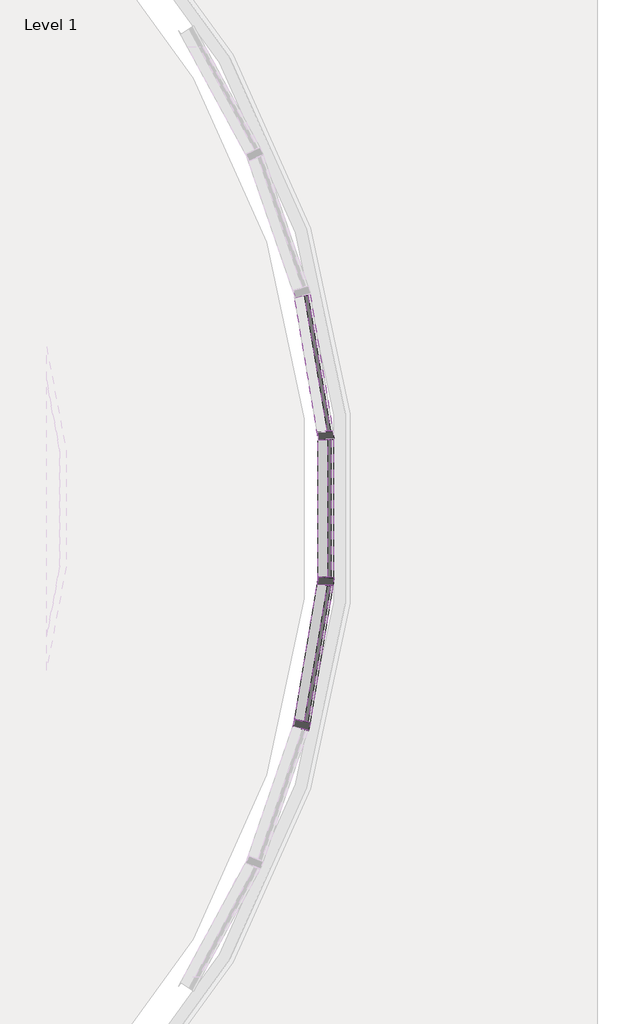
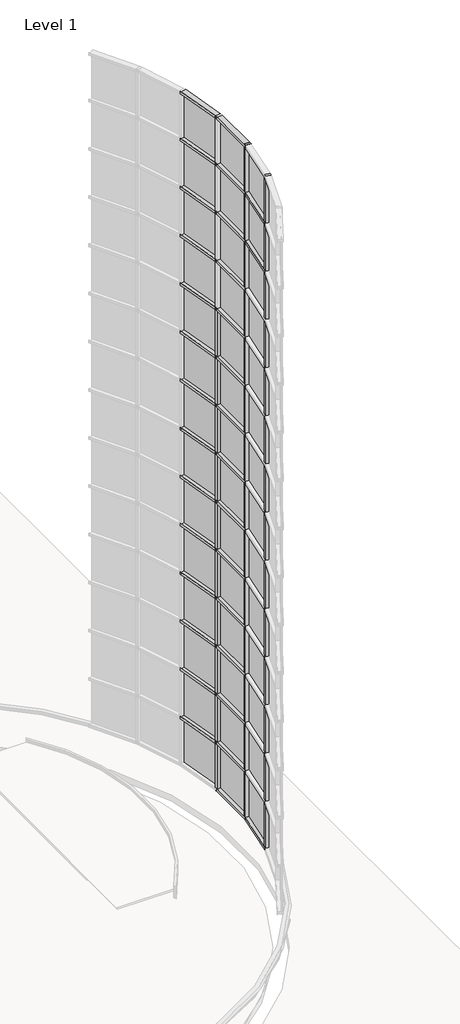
# One storey, part 8 of 20: 70 members, 42 plates.
"""IFC4 building model written with IfcOpenShell, lengths in millimetres."""

from ifc_helpers import new_model, si_unit, origin, place, context, project, spatial, transform, mapped, element, save
from components import member_68fe8548, member_f830fa99, member_935f61b8, system_panel_glazed_da602fa6, system_panel_glazed_77fd207e

model = new_model("IFC4")

# Units and contexts
model_context = context("Model", 3, world=origin())
ifc_project = project(units=[si_unit("LENGTHUNIT", "METRE", prefix="MILLI")], contexts=[model_context])

# Site, building, storey
site = spatial("IfcSite", under=ifc_project)
building = spatial("IfcBuilding", under=site)
storey = spatial("IfcBuildingStorey", under=building, Name="Level 1", Elevation=0.0)

# Members
placement = place(None, origin())
member_shape = member_68fe8548(model_context)
element("IfcMember", 1, ObjectType="Rectangular Mullion : 2.5\" x 5\" rectangular", at=placement, inside=storey, context=model_context, shape_type="MappedRepresentation", body=[
    mapped(member_shape, transform((25047.3123322, -1884.960282, 17983.2), x_axis=(0.0, 0.0, 1.0), y_axis=(-0.9863613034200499, -0.1645945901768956, 0.0), z_axis=(0.1645945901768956, -0.9863613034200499, 0.0))),
])
element("IfcMember", 2, ObjectType="Rectangular Mullion : 2.5\" x 5\" rectangular", at=placement, inside=storey, context=model_context, shape_type="MappedRepresentation", body=[
    mapped(member_shape, transform((25052.5382104, -3063.5930828, 17983.2), x_axis=(0.0, 0.0, 1.0), y_axis=(-1.0, 0.0, 0.0), z_axis=(0.0, -1.0, 0.0))),
])
element("IfcMember", 3, ObjectType="Rectangular Mullion : 2.5\" x 5\" rectangular", at=placement, inside=storey, context=model_context, shape_type="MappedRepresentation", body=[
    mapped(member_shape, transform((25052.5382104, -1948.0272534, 1092.2), x_axis=(0.0, 0.0, -1.0), y_axis=(-1.0, 0.0, 0.0), z_axis=(0.0, 1.0, 0.0))),
])
element("IfcMember", 4, ObjectType="Rectangular Mullion : 2.5\" x 5\" rectangular", at=placement, inside=storey, context=model_context, shape_type="MappedRepresentation", body=[
    mapped(member_shape, transform((25047.3123322, -3126.6600542, 1092.2), x_axis=(0.0, 0.0, -1.0), y_axis=(-0.9863613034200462, 0.16459459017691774, 0.0), z_axis=(0.16459459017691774, 0.9863613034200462, 0.0))),
])
member_2_shape = member_f830fa99(model_context)
element("IfcMember", 5, ObjectType="Rectangular Mullion : 2.5\" x 5\" rectangular", at=placement, inside=storey, context=model_context, shape_type="MappedRepresentation", body=[
    mapped(member_2_shape, transform((25047.3123322, -1884.960282, 2298.7), x_axis=(0.0, 0.0, 1.0), y_axis=(-0.9863613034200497, -0.16459459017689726, 0.0), z_axis=(0.16459459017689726, -0.9863613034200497, 0.0))),
])
element("IfcMember", 6, ObjectType="Rectangular Mullion : 2.5\" x 5\" rectangular", at=placement, inside=storey, context=model_context, shape_type="MappedRepresentation", body=[
    mapped(member_2_shape, transform((25052.5382104, -3063.5930828, 2298.7), x_axis=(0.0, 0.0, 1.0), y_axis=(-1.0, 0.0, 0.0), z_axis=(0.0, -1.0, 0.0))),
])
element("IfcMember", 7, ObjectType="Rectangular Mullion : 2.5\" x 5\" rectangular", at=placement, inside=storey, context=model_context, shape_type="MappedRepresentation", body=[
    mapped(member_2_shape, transform((25047.3123322, -1884.960282, 3505.2), x_axis=(0.0, 0.0, 1.0), y_axis=(-0.9863613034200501, -0.16459459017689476, 0.0), z_axis=(0.16459459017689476, -0.9863613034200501, 0.0))),
])
element("IfcMember", 8, ObjectType="Rectangular Mullion : 2.5\" x 5\" rectangular", at=placement, inside=storey, context=model_context, shape_type="MappedRepresentation", body=[
    mapped(member_2_shape, transform((25052.5382104, -3063.5930828, 3505.2), x_axis=(0.0, 0.0, 1.0), y_axis=(-1.0, 0.0, 0.0), z_axis=(0.0, -1.0, 0.0))),
])
element("IfcMember", 9, ObjectType="Rectangular Mullion : 2.5\" x 5\" rectangular", at=placement, inside=storey, context=model_context, shape_type="MappedRepresentation", body=[
    mapped(member_2_shape, transform((25047.3123322, -1884.960282, 4711.7), x_axis=(0.0, 0.0, 1.0), y_axis=(-0.9863613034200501, -0.16459459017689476, 0.0), z_axis=(0.16459459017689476, -0.9863613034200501, 0.0))),
])
element("IfcMember", 10, ObjectType="Rectangular Mullion : 2.5\" x 5\" rectangular", at=placement, inside=storey, context=model_context, shape_type="MappedRepresentation", body=[
    mapped(member_2_shape, transform((25052.5382104, -3063.5930828, 4711.7), x_axis=(0.0, 0.0, 1.0), y_axis=(-1.0, 0.0, 0.0), z_axis=(0.0, -1.0, 0.0))),
])
element("IfcMember", 11, ObjectType="Rectangular Mullion : 2.5\" x 5\" rectangular", at=placement, inside=storey, context=model_context, shape_type="MappedRepresentation", body=[
    mapped(member_2_shape, transform((25047.3123322, -1884.960282, 5918.2), x_axis=(0.0, 0.0, 1.0), y_axis=(-0.9863613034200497, -0.16459459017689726, 0.0), z_axis=(0.16459459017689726, -0.9863613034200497, 0.0))),
])
element("IfcMember", 12, ObjectType="Rectangular Mullion : 2.5\" x 5\" rectangular", at=placement, inside=storey, context=model_context, shape_type="MappedRepresentation", body=[
    mapped(member_2_shape, transform((25052.5382104, -3063.5930828, 5918.2), x_axis=(0.0, 0.0, 1.0), y_axis=(-1.0, 0.0, 0.0), z_axis=(0.0, -1.0, 0.0))),
])
element("IfcMember", 13, ObjectType="Rectangular Mullion : 2.5\" x 5\" rectangular", at=placement, inside=storey, context=model_context, shape_type="MappedRepresentation", body=[
    mapped(member_2_shape, transform((25047.3123322, -1884.960282, 7124.7), x_axis=(0.0, 0.0, 1.0), y_axis=(-0.9863613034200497, -0.16459459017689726, 0.0), z_axis=(0.16459459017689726, -0.9863613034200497, 0.0))),
])
element("IfcMember", 14, ObjectType="Rectangular Mullion : 2.5\" x 5\" rectangular", at=placement, inside=storey, context=model_context, shape_type="MappedRepresentation", body=[
    mapped(member_2_shape, transform((25052.5382104, -3063.5930828, 7124.7), x_axis=(0.0, 0.0, 1.0), y_axis=(-1.0, 0.0, 0.0), z_axis=(0.0, -1.0, 0.0))),
])
element("IfcMember", 15, ObjectType="Rectangular Mullion : 2.5\" x 5\" rectangular", at=placement, inside=storey, context=model_context, shape_type="MappedRepresentation", body=[
    mapped(member_2_shape, transform((25047.3123322, -1884.960282, 8331.2), x_axis=(0.0, 0.0, 1.0), y_axis=(-0.9863613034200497, -0.16459459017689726, 0.0), z_axis=(0.16459459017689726, -0.9863613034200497, 0.0))),
])
element("IfcMember", 16, ObjectType="Rectangular Mullion : 2.5\" x 5\" rectangular", at=placement, inside=storey, context=model_context, shape_type="MappedRepresentation", body=[
    mapped(member_2_shape, transform((25052.5382104, -3063.5930828, 8331.2), x_axis=(0.0, 0.0, 1.0), y_axis=(-1.0, 0.0, 0.0), z_axis=(0.0, -1.0, 0.0))),
])
element("IfcMember", 17, ObjectType="Rectangular Mullion : 2.5\" x 5\" rectangular", at=placement, inside=storey, context=model_context, shape_type="MappedRepresentation", body=[
    mapped(member_2_shape, transform((25047.3123322, -1884.960282, 9537.7), x_axis=(0.0, 0.0, 1.0), y_axis=(-0.9863613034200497, -0.16459459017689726, 0.0), z_axis=(0.16459459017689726, -0.9863613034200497, 0.0))),
])
element("IfcMember", 18, ObjectType="Rectangular Mullion : 2.5\" x 5\" rectangular", at=placement, inside=storey, context=model_context, shape_type="MappedRepresentation", body=[
    mapped(member_2_shape, transform((25052.5382104, -3063.5930828, 9537.7), x_axis=(0.0, 0.0, 1.0), y_axis=(-1.0, 0.0, 0.0), z_axis=(0.0, -1.0, 0.0))),
])
element("IfcMember", 19, ObjectType="Rectangular Mullion : 2.5\" x 5\" rectangular", at=placement, inside=storey, context=model_context, shape_type="MappedRepresentation", body=[
    mapped(member_2_shape, transform((25047.3123322, -1884.960282, 10744.2), x_axis=(0.0, 0.0, 1.0), y_axis=(-0.9863613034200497, -0.16459459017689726, 0.0), z_axis=(0.16459459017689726, -0.9863613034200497, 0.0))),
])
element("IfcMember", 20, ObjectType="Rectangular Mullion : 2.5\" x 5\" rectangular", at=placement, inside=storey, context=model_context, shape_type="MappedRepresentation", body=[
    mapped(member_2_shape, transform((25052.5382104, -3063.5930828, 10744.2), x_axis=(0.0, 0.0, 1.0), y_axis=(-1.0, 0.0, 0.0), z_axis=(0.0, -1.0, 0.0))),
])
element("IfcMember", 21, ObjectType="Rectangular Mullion : 2.5\" x 5\" rectangular", at=placement, inside=storey, context=model_context, shape_type="MappedRepresentation", body=[
    mapped(member_2_shape, transform((25047.3123322, -1884.960282, 11950.7), x_axis=(0.0, 0.0, 1.0), y_axis=(-0.9863613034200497, -0.16459459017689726, 0.0), z_axis=(0.16459459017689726, -0.9863613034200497, 0.0))),
])
element("IfcMember", 22, ObjectType="Rectangular Mullion : 2.5\" x 5\" rectangular", at=placement, inside=storey, context=model_context, shape_type="MappedRepresentation", body=[
    mapped(member_2_shape, transform((25052.5382104, -3063.5930828, 11950.7), x_axis=(0.0, 0.0, 1.0), y_axis=(-1.0, 0.0, 0.0), z_axis=(0.0, -1.0, 0.0))),
])
element("IfcMember", 23, ObjectType="Rectangular Mullion : 2.5\" x 5\" rectangular", at=placement, inside=storey, context=model_context, shape_type="MappedRepresentation", body=[
    mapped(member_2_shape, transform((25047.3123322, -1884.960282, 13157.2), x_axis=(0.0, 0.0, 1.0), y_axis=(-0.9863613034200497, -0.16459459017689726, 0.0), z_axis=(0.16459459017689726, -0.9863613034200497, 0.0))),
])
element("IfcMember", 24, ObjectType="Rectangular Mullion : 2.5\" x 5\" rectangular", at=placement, inside=storey, context=model_context, shape_type="MappedRepresentation", body=[
    mapped(member_2_shape, transform((25052.5382104, -3063.5930828, 13157.2), x_axis=(0.0, 0.0, 1.0), y_axis=(-1.0, 0.0, 0.0), z_axis=(0.0, -1.0, 0.0))),
])
element("IfcMember", 25, ObjectType="Rectangular Mullion : 2.5\" x 5\" rectangular", at=placement, inside=storey, context=model_context, shape_type="MappedRepresentation", body=[
    mapped(member_2_shape, transform((25047.3123322, -1884.960282, 14363.7), x_axis=(0.0, 0.0, 1.0), y_axis=(-0.9863613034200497, -0.16459459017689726, 0.0), z_axis=(0.16459459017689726, -0.9863613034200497, 0.0))),
])
element("IfcMember", 26, ObjectType="Rectangular Mullion : 2.5\" x 5\" rectangular", at=placement, inside=storey, context=model_context, shape_type="MappedRepresentation", body=[
    mapped(member_2_shape, transform((25052.5382104, -3063.5930828, 14363.7), x_axis=(0.0, 0.0, 1.0), y_axis=(-1.0, 0.0, 0.0), z_axis=(0.0, -1.0, 0.0))),
])
element("IfcMember", 27, ObjectType="Rectangular Mullion : 2.5\" x 5\" rectangular", at=placement, inside=storey, context=model_context, shape_type="MappedRepresentation", body=[
    mapped(member_2_shape, transform((25047.3123322, -1884.960282, 15570.2), x_axis=(0.0, 0.0, 1.0), y_axis=(-0.9863613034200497, -0.16459459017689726, 0.0), z_axis=(0.16459459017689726, -0.9863613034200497, 0.0))),
])
element("IfcMember", 28, ObjectType="Rectangular Mullion : 2.5\" x 5\" rectangular", at=placement, inside=storey, context=model_context, shape_type="MappedRepresentation", body=[
    mapped(member_2_shape, transform((25052.5382104, -3063.5930828, 15570.2), x_axis=(0.0, 0.0, 1.0), y_axis=(-1.0, 0.0, 0.0), z_axis=(0.0, -1.0, 0.0))),
])
element("IfcMember", 29, ObjectType="Rectangular Mullion : 2.5\" x 5\" rectangular", at=placement, inside=storey, context=model_context, shape_type="MappedRepresentation", body=[
    mapped(member_2_shape, transform((24863.6962317, -4227.0110197, 15570.2), x_axis=(0.0, 0.0, 1.0), y_axis=(-0.9863613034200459, 0.16459459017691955, 0.0), z_axis=(-0.16459459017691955, -0.9863613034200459, 0.0))),
])
element("IfcMember", 30, ObjectType="Rectangular Mullion : 2.5\" x 5\" rectangular", at=placement, inside=storey, context=model_context, shape_type="MappedRepresentation", body=[
    mapped(member_2_shape, transform((25047.3123322, -1884.960282, 16776.7), x_axis=(0.0, 0.0, 1.0), y_axis=(-0.9863613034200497, -0.16459459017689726, 0.0), z_axis=(0.16459459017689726, -0.9863613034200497, 0.0))),
])
element("IfcMember", 31, ObjectType="Rectangular Mullion : 2.5\" x 5\" rectangular", at=placement, inside=storey, context=model_context, shape_type="MappedRepresentation", body=[
    mapped(member_2_shape, transform((25052.5382104, -3063.5930828, 16776.7), x_axis=(0.0, 0.0, 1.0), y_axis=(-1.0, 0.0, 0.0), z_axis=(0.0, -1.0, 0.0))),
])
element("IfcMember", 32, ObjectType="Rectangular Mullion : 2.5\" x 5\" rectangular", at=placement, inside=storey, context=model_context, shape_type="MappedRepresentation", body=[
    mapped(member_2_shape, transform((24863.6962317, -4227.0110197, 16776.7), x_axis=(0.0, 0.0, 1.0), y_axis=(-0.9863613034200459, 0.16459459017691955, 0.0), z_axis=(-0.16459459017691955, -0.9863613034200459, 0.0))),
])
member_3_shape = member_935f61b8(model_context)
element("IfcMember", 33, ObjectType="Rectangular Mullion : 2.5\" x 5\" rectangular", at=placement, inside=storey, context=model_context, shape_type="MappedRepresentation", body=[
    mapped(member_3_shape, transform((25052.5382104, -1916.2772534, 1092.2), x_axis=(0.08257934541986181, -0.9965844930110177, 0.0), y_axis=(-0.9965844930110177, -0.08257934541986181, 0.0), z_axis=(0.0, 0.0, -1.0))),
])
element("IfcMember", 34, ObjectType="Rectangular Mullion : 2.5\" x 5\" rectangular", at=placement, inside=storey, context=model_context, shape_type="MappedRepresentation", body=[
    mapped(member_3_shape, transform((25052.5382104, -3095.3430828, 1092.2), x_axis=(-0.08257934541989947, -0.9965844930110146, 0.0), y_axis=(-0.9965844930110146, 0.08257934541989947, 0.0), z_axis=(0.0, 0.0, -1.0))),
])
element("IfcMember", 35, ObjectType="Rectangular Mullion : 2.5\" x 5\" rectangular", at=placement, inside=storey, context=model_context, shape_type="MappedRepresentation", body=[
    mapped(member_3_shape, transform((24858.4703534, -4258.3279911, 1092.2), x_axis=(-0.24548548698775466, -0.9694002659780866, 0.0), y_axis=(-0.9694002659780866, 0.24548548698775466, 0.0), z_axis=(0.0, 0.0, -1.0))),
])
element("IfcMember", 36, ObjectType="Rectangular Mullion : 2.5\" x 5\" rectangular", at=placement, inside=storey, context=model_context, shape_type="MappedRepresentation", body=[
    mapped(member_3_shape, transform((25052.5382104, -1916.2772534, 2298.7), x_axis=(0.0825793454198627, -0.9965844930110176, 0.0), y_axis=(-0.9965844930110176, -0.0825793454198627, 0.0), z_axis=(0.0, 0.0, -1.0))),
])
element("IfcMember", 37, ObjectType="Rectangular Mullion : 2.5\" x 5\" rectangular", at=placement, inside=storey, context=model_context, shape_type="MappedRepresentation", body=[
    mapped(member_3_shape, transform((25052.5382104, -3095.3430828, 2298.7), x_axis=(-0.0825793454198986, -0.9965844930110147, 0.0), y_axis=(-0.9965844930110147, 0.0825793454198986, 0.0), z_axis=(0.0, 0.0, -1.0))),
])
element("IfcMember", 38, ObjectType="Rectangular Mullion : 2.5\" x 5\" rectangular", at=placement, inside=storey, context=model_context, shape_type="MappedRepresentation", body=[
    mapped(member_3_shape, transform((24858.4703534, -4258.3279911, 2298.7), x_axis=(-0.24548548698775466, -0.9694002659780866, 0.0), y_axis=(-0.9694002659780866, 0.24548548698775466, 0.0), z_axis=(0.0, 0.0, -1.0))),
])
element("IfcMember", 39, ObjectType="Rectangular Mullion : 2.5\" x 5\" rectangular", at=placement, inside=storey, context=model_context, shape_type="MappedRepresentation", body=[
    mapped(member_3_shape, transform((25052.5382104, -1916.2772534, 3505.2), x_axis=(0.08257934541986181, -0.9965844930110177, 0.0), y_axis=(-0.9965844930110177, -0.08257934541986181, 0.0), z_axis=(0.0, 0.0, -1.0))),
])
element("IfcMember", 40, ObjectType="Rectangular Mullion : 2.5\" x 5\" rectangular", at=placement, inside=storey, context=model_context, shape_type="MappedRepresentation", body=[
    mapped(member_3_shape, transform((25052.5382104, -3095.3430828, 3505.2), x_axis=(-0.0825793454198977, -0.9965844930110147, 0.0), y_axis=(-0.9965844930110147, 0.0825793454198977, 0.0), z_axis=(0.0, 0.0, -1.0))),
])
element("IfcMember", 41, ObjectType="Rectangular Mullion : 2.5\" x 5\" rectangular", at=placement, inside=storey, context=model_context, shape_type="MappedRepresentation", body=[
    mapped(member_3_shape, transform((24858.4703534, -4258.3279911, 3505.2), x_axis=(-0.24548548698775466, -0.9694002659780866, 0.0), y_axis=(-0.9694002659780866, 0.24548548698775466, 0.0), z_axis=(0.0, 0.0, -1.0))),
])
element("IfcMember", 42, ObjectType="Rectangular Mullion : 2.5\" x 5\" rectangular", at=placement, inside=storey, context=model_context, shape_type="MappedRepresentation", body=[
    mapped(member_3_shape, transform((25052.5382104, -1916.2772534, 4711.7), x_axis=(0.08257934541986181, -0.9965844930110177, 0.0), y_axis=(-0.9965844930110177, -0.08257934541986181, 0.0), z_axis=(0.0, 0.0, -1.0))),
])
element("IfcMember", 43, ObjectType="Rectangular Mullion : 2.5\" x 5\" rectangular", at=placement, inside=storey, context=model_context, shape_type="MappedRepresentation", body=[
    mapped(member_3_shape, transform((25052.5382104, -3095.3430828, 4711.7), x_axis=(-0.08257934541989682, -0.9965844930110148, 0.0), y_axis=(-0.9965844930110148, 0.08257934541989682, 0.0), z_axis=(0.0, 0.0, -1.0))),
])
element("IfcMember", 44, ObjectType="Rectangular Mullion : 2.5\" x 5\" rectangular", at=placement, inside=storey, context=model_context, shape_type="MappedRepresentation", body=[
    mapped(member_3_shape, transform((24858.4703534, -4258.3279911, 4711.7), x_axis=(-0.24548548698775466, -0.9694002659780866, 0.0), y_axis=(-0.9694002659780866, 0.24548548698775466, 0.0), z_axis=(0.0, 0.0, -1.0))),
])
element("IfcMember", 45, ObjectType="Rectangular Mullion : 2.5\" x 5\" rectangular", at=placement, inside=storey, context=model_context, shape_type="MappedRepresentation", body=[
    mapped(member_3_shape, transform((25052.5382104, -1916.2772534, 5918.2), x_axis=(0.0825793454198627, -0.9965844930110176, 0.0), y_axis=(-0.9965844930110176, -0.0825793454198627, 0.0), z_axis=(0.0, 0.0, -1.0))),
])
element("IfcMember", 46, ObjectType="Rectangular Mullion : 2.5\" x 5\" rectangular", at=placement, inside=storey, context=model_context, shape_type="MappedRepresentation", body=[
    mapped(member_3_shape, transform((25052.5382104, -3095.3430828, 5918.2), x_axis=(-0.08257934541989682, -0.9965844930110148, 0.0), y_axis=(-0.9965844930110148, 0.08257934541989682, 0.0), z_axis=(0.0, 0.0, -1.0))),
])
element("IfcMember", 47, ObjectType="Rectangular Mullion : 2.5\" x 5\" rectangular", at=placement, inside=storey, context=model_context, shape_type="MappedRepresentation", body=[
    mapped(member_3_shape, transform((24858.4703534, -4258.3279911, 5918.2), x_axis=(-0.24548548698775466, -0.9694002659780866, 0.0), y_axis=(-0.9694002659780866, 0.24548548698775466, 0.0), z_axis=(0.0, 0.0, -1.0))),
])
element("IfcMember", 48, ObjectType="Rectangular Mullion : 2.5\" x 5\" rectangular", at=placement, inside=storey, context=model_context, shape_type="MappedRepresentation", body=[
    mapped(member_3_shape, transform((25052.5382104, -1916.2772534, 7124.7), x_axis=(0.0825793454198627, -0.9965844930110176, 0.0), y_axis=(-0.9965844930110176, -0.0825793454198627, 0.0), z_axis=(0.0, 0.0, -1.0))),
])
element("IfcMember", 49, ObjectType="Rectangular Mullion : 2.5\" x 5\" rectangular", at=placement, inside=storey, context=model_context, shape_type="MappedRepresentation", body=[
    mapped(member_3_shape, transform((25052.5382104, -3095.3430828, 7124.7), x_axis=(-0.0825793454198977, -0.9965844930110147, 0.0), y_axis=(-0.9965844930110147, 0.0825793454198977, 0.0), z_axis=(0.0, 0.0, -1.0))),
])
element("IfcMember", 50, ObjectType="Rectangular Mullion : 2.5\" x 5\" rectangular", at=placement, inside=storey, context=model_context, shape_type="MappedRepresentation", body=[
    mapped(member_3_shape, transform((24858.4703534, -4258.3279911, 7124.7), x_axis=(-0.2454854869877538, -0.9694002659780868, 0.0), y_axis=(-0.9694002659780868, 0.2454854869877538, 0.0), z_axis=(0.0, 0.0, -1.0))),
])
element("IfcMember", 51, ObjectType="Rectangular Mullion : 2.5\" x 5\" rectangular", at=placement, inside=storey, context=model_context, shape_type="MappedRepresentation", body=[
    mapped(member_3_shape, transform((25052.5382104, -1916.2772534, 8331.2), x_axis=(0.0825793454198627, -0.9965844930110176, 0.0), y_axis=(-0.9965844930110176, -0.0825793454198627, 0.0), z_axis=(0.0, 0.0, -1.0))),
])
element("IfcMember", 52, ObjectType="Rectangular Mullion : 2.5\" x 5\" rectangular", at=placement, inside=storey, context=model_context, shape_type="MappedRepresentation", body=[
    mapped(member_3_shape, transform((25052.5382104, -3095.3430828, 8331.2), x_axis=(-0.0825793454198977, -0.9965844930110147, 0.0), y_axis=(-0.9965844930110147, 0.0825793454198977, 0.0), z_axis=(0.0, 0.0, -1.0))),
])
element("IfcMember", 53, ObjectType="Rectangular Mullion : 2.5\" x 5\" rectangular", at=placement, inside=storey, context=model_context, shape_type="MappedRepresentation", body=[
    mapped(member_3_shape, transform((24858.4703534, -4258.3279911, 8331.2), x_axis=(-0.2454854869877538, -0.9694002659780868, 0.0), y_axis=(-0.9694002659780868, 0.2454854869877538, 0.0), z_axis=(0.0, 0.0, -1.0))),
])
element("IfcMember", 54, ObjectType="Rectangular Mullion : 2.5\" x 5\" rectangular", at=placement, inside=storey, context=model_context, shape_type="MappedRepresentation", body=[
    mapped(member_3_shape, transform((25052.5382104, -1916.2772534, 9537.7), x_axis=(0.0825793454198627, -0.9965844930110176, 0.0), y_axis=(-0.9965844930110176, -0.0825793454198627, 0.0), z_axis=(0.0, 0.0, -1.0))),
])
element("IfcMember", 55, ObjectType="Rectangular Mullion : 2.5\" x 5\" rectangular", at=placement, inside=storey, context=model_context, shape_type="MappedRepresentation", body=[
    mapped(member_3_shape, transform((25052.5382104, -3095.3430828, 9537.7), x_axis=(-0.0825793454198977, -0.9965844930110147, 0.0), y_axis=(-0.9965844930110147, 0.0825793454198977, 0.0), z_axis=(0.0, 0.0, -1.0))),
])
element("IfcMember", 56, ObjectType="Rectangular Mullion : 2.5\" x 5\" rectangular", at=placement, inside=storey, context=model_context, shape_type="MappedRepresentation", body=[
    mapped(member_3_shape, transform((24858.4703534, -4258.3279911, 9537.7), x_axis=(-0.2454854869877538, -0.9694002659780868, 0.0), y_axis=(-0.9694002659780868, 0.2454854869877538, 0.0), z_axis=(0.0, 0.0, -1.0))),
])
element("IfcMember", 57, ObjectType="Rectangular Mullion : 2.5\" x 5\" rectangular", at=placement, inside=storey, context=model_context, shape_type="MappedRepresentation", body=[
    mapped(member_3_shape, transform((25052.5382104, -1916.2772534, 10744.2), x_axis=(0.0825793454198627, -0.9965844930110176, 0.0), y_axis=(-0.9965844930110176, -0.0825793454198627, 0.0), z_axis=(0.0, 0.0, -1.0))),
])
element("IfcMember", 58, ObjectType="Rectangular Mullion : 2.5\" x 5\" rectangular", at=placement, inside=storey, context=model_context, shape_type="MappedRepresentation", body=[
    mapped(member_3_shape, transform((25052.5382104, -3095.3430828, 10744.2), x_axis=(-0.0825793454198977, -0.9965844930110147, 0.0), y_axis=(-0.9965844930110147, 0.0825793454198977, 0.0), z_axis=(0.0, 0.0, -1.0))),
])
element("IfcMember", 59, ObjectType="Rectangular Mullion : 2.5\" x 5\" rectangular", at=placement, inside=storey, context=model_context, shape_type="MappedRepresentation", body=[
    mapped(member_3_shape, transform((24858.4703534, -4258.3279911, 10744.2), x_axis=(-0.2454854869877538, -0.9694002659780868, 0.0), y_axis=(-0.9694002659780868, 0.2454854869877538, 0.0), z_axis=(0.0, 0.0, -1.0))),
])
element("IfcMember", 60, ObjectType="Rectangular Mullion : 2.5\" x 5\" rectangular", at=placement, inside=storey, context=model_context, shape_type="MappedRepresentation", body=[
    mapped(member_3_shape, transform((25052.5382104, -1916.2772534, 11950.7), x_axis=(0.0825793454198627, -0.9965844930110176, 0.0), y_axis=(-0.9965844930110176, -0.0825793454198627, 0.0), z_axis=(0.0, 0.0, -1.0))),
])
element("IfcMember", 61, ObjectType="Rectangular Mullion : 2.5\" x 5\" rectangular", at=placement, inside=storey, context=model_context, shape_type="MappedRepresentation", body=[
    mapped(member_3_shape, transform((25052.5382104, -3095.3430828, 11950.7), x_axis=(-0.0825793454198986, -0.9965844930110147, 0.0), y_axis=(-0.9965844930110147, 0.0825793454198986, 0.0), z_axis=(0.0, 0.0, -1.0))),
])
element("IfcMember", 62, ObjectType="Rectangular Mullion : 2.5\" x 5\" rectangular", at=placement, inside=storey, context=model_context, shape_type="MappedRepresentation", body=[
    mapped(member_3_shape, transform((24858.4703534, -4258.3279911, 11950.7), x_axis=(-0.2454854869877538, -0.9694002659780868, 0.0), y_axis=(-0.9694002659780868, 0.2454854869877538, 0.0), z_axis=(0.0, 0.0, -1.0))),
])
element("IfcMember", 63, ObjectType="Rectangular Mullion : 2.5\" x 5\" rectangular", at=placement, inside=storey, context=model_context, shape_type="MappedRepresentation", body=[
    mapped(member_3_shape, transform((25052.5382104, -3095.3430828, 13157.2), x_axis=(-0.0825793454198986, -0.9965844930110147, 0.0), y_axis=(-0.9965844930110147, 0.0825793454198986, 0.0), z_axis=(0.0, 0.0, -1.0))),
])
element("IfcMember", 64, ObjectType="Rectangular Mullion : 2.5\" x 5\" rectangular", at=placement, inside=storey, context=model_context, shape_type="MappedRepresentation", body=[
    mapped(member_3_shape, transform((24858.4703534, -4258.3279911, 13157.2), x_axis=(-0.2454854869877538, -0.9694002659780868, 0.0), y_axis=(-0.9694002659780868, 0.2454854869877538, 0.0), z_axis=(0.0, 0.0, -1.0))),
])
element("IfcMember", 65, ObjectType="Rectangular Mullion : 2.5\" x 5\" rectangular", at=placement, inside=storey, context=model_context, shape_type="MappedRepresentation", body=[
    mapped(member_3_shape, transform((25052.5382104, -3095.3430828, 14363.7), x_axis=(-0.0825793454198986, -0.9965844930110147, 0.0), y_axis=(-0.9965844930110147, 0.0825793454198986, 0.0), z_axis=(0.0, 0.0, -1.0))),
])
element("IfcMember", 66, ObjectType="Rectangular Mullion : 2.5\" x 5\" rectangular", at=placement, inside=storey, context=model_context, shape_type="MappedRepresentation", body=[
    mapped(member_3_shape, transform((24858.4703534, -4258.3279911, 14363.7), x_axis=(-0.2454854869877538, -0.9694002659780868, 0.0), y_axis=(-0.9694002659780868, 0.2454854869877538, 0.0), z_axis=(0.0, 0.0, -1.0))),
])
element("IfcMember", 67, ObjectType="Rectangular Mullion : 2.5\" x 5\" rectangular", at=placement, inside=storey, context=model_context, shape_type="MappedRepresentation", body=[
    mapped(member_3_shape, transform((25052.5382104, -3095.3430828, 15570.2), x_axis=(-0.08257934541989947, -0.9965844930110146, 0.0), y_axis=(-0.9965844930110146, 0.08257934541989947, 0.0), z_axis=(0.0, 0.0, -1.0))),
])
element("IfcMember", 68, ObjectType="Rectangular Mullion : 2.5\" x 5\" rectangular", at=placement, inside=storey, context=model_context, shape_type="MappedRepresentation", body=[
    mapped(member_3_shape, transform((24858.4703534, -4258.3279911, 15570.2), x_axis=(-0.2454854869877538, -0.9694002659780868, 0.0), y_axis=(-0.9694002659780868, 0.2454854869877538, 0.0), z_axis=(0.0, 0.0, -1.0))),
])
element("IfcMember", 69, ObjectType="Rectangular Mullion : 2.5\" x 5\" rectangular", at=placement, inside=storey, context=model_context, shape_type="MappedRepresentation", body=[
    mapped(member_3_shape, transform((25052.5382104, -3095.3430828, 16776.7), x_axis=(-0.08257934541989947, -0.9965844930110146, 0.0), y_axis=(-0.9965844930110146, 0.08257934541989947, 0.0), z_axis=(0.0, 0.0, -1.0))),
])
element("IfcMember", 70, ObjectType="Rectangular Mullion : 2.5\" x 5\" rectangular", at=placement, inside=storey, context=model_context, shape_type="MappedRepresentation", body=[
    mapped(member_3_shape, transform((24858.4703534, -4258.3279911, 16776.7), x_axis=(-0.2454854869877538, -0.9694002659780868, 0.0), y_axis=(-0.9694002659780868, 0.2454854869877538, 0.0), z_axis=(0.0, 0.0, -1.0))),
])

# Plates
system_panel_glazed_shape = system_panel_glazed_da602fa6(model_context)
element("IfcPlate", 71, ObjectType="System Panel : Glazed", at=placement, inside=storey, context=model_context, shape_type="MappedRepresentation", body=[
    mapped(system_panel_glazed_shape, transform((24955.5042819, -1334.7847992, 1155.7), x_axis=(0.16459459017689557, -0.9863613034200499, 0.0), y_axis=(0.9863613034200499, 0.16459459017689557, 0.0), z_axis=(0.0, 0.0, 1.0))),
])
element("IfcPlate", 72, ObjectType="System Panel : Glazed", at=placement, inside=storey, context=model_context, shape_type="MappedRepresentation", body=[
    mapped(system_panel_glazed_shape, transform((25052.5382104, -2505.8101681, 1155.7), x_axis=(0.0, -1.0, 0.0), y_axis=(1.0, 0.0, 0.0), z_axis=(0.0, 0.0, 1.0))),
])
element("IfcPlate", 73, ObjectType="System Panel : Glazed", at=placement, inside=storey, context=model_context, shape_type="MappedRepresentation", body=[
    mapped(system_panel_glazed_shape, transform((24955.5042819, -3676.8355369, 1155.7), x_axis=(-0.16459459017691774, -0.9863613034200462, 0.0), y_axis=(0.9863613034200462, -0.16459459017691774, 0.0), z_axis=(0.0, 0.0, 1.0))),
])
element("IfcPlate", 74, ObjectType="System Panel : Glazed", at=placement, inside=storey, context=model_context, shape_type="MappedRepresentation", body=[
    mapped(system_panel_glazed_shape, transform((24955.5042819, -1334.7847992, 16808.45), x_axis=(0.1645945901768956, -0.9863613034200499, 0.0), y_axis=(0.9863613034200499, 0.1645945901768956, 0.0), z_axis=(0.0, 0.0, 1.0))),
])
element("IfcPlate", 75, ObjectType="System Panel : Glazed", at=placement, inside=storey, context=model_context, shape_type="MappedRepresentation", body=[
    mapped(system_panel_glazed_shape, transform((25052.5382104, -2505.8101681, 16808.45), x_axis=(0.0, -1.0, 0.0), y_axis=(1.0, 0.0, 0.0), z_axis=(0.0, 0.0, 1.0))),
])
element("IfcPlate", 76, ObjectType="System Panel : Glazed", at=placement, inside=storey, context=model_context, shape_type="MappedRepresentation", body=[
    mapped(system_panel_glazed_shape, transform((24955.5042819, -3676.8355369, 16808.45), x_axis=(-0.16459459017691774, -0.9863613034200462, 0.0), y_axis=(0.9863613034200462, -0.16459459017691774, 0.0), z_axis=(0.0, 0.0, 1.0))),
])
system_panel_glazed_2_shape = system_panel_glazed_77fd207e(model_context)
element("IfcPlate", 77, ObjectType="System Panel : Glazed", at=placement, inside=storey, context=model_context, shape_type="MappedRepresentation", body=[
    mapped(system_panel_glazed_2_shape, transform((24955.5042819, -1334.7847992, 2330.45), x_axis=(0.1645945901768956, -0.9863613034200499, 0.0), y_axis=(0.9863613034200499, 0.1645945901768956, 0.0), z_axis=(0.0, 0.0, 1.0))),
])
element("IfcPlate", 78, ObjectType="System Panel : Glazed", at=placement, inside=storey, context=model_context, shape_type="MappedRepresentation", body=[
    mapped(system_panel_glazed_2_shape, transform((25052.5382104, -2505.8101681, 2330.45), x_axis=(0.0, -1.0, 0.0), y_axis=(1.0, 0.0, 0.0), z_axis=(0.0, 0.0, 1.0))),
])
element("IfcPlate", 79, ObjectType="System Panel : Glazed", at=placement, inside=storey, context=model_context, shape_type="MappedRepresentation", body=[
    mapped(system_panel_glazed_2_shape, transform((24955.5042819, -3676.8355369, 2330.45), x_axis=(-0.16459459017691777, -0.9863613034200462, 0.0), y_axis=(0.9863613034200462, -0.16459459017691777, 0.0), z_axis=(0.0, 0.0, 1.0))),
])
element("IfcPlate", 80, ObjectType="System Panel : Glazed", at=placement, inside=storey, context=model_context, shape_type="MappedRepresentation", body=[
    mapped(system_panel_glazed_2_shape, transform((24955.5042819, -1334.7847992, 3536.95), x_axis=(0.1645945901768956, -0.9863613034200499, 0.0), y_axis=(0.9863613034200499, 0.1645945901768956, 0.0), z_axis=(0.0, 0.0, 1.0))),
])
element("IfcPlate", 81, ObjectType="System Panel : Glazed", at=placement, inside=storey, context=model_context, shape_type="MappedRepresentation", body=[
    mapped(system_panel_glazed_2_shape, transform((25052.5382104, -2505.8101681, 3536.95), x_axis=(0.0, -1.0, 0.0), y_axis=(1.0, 0.0, 0.0), z_axis=(0.0, 0.0, 1.0))),
])
element("IfcPlate", 82, ObjectType="System Panel : Glazed", at=placement, inside=storey, context=model_context, shape_type="MappedRepresentation", body=[
    mapped(system_panel_glazed_2_shape, transform((24955.5042819, -3676.8355369, 3536.95), x_axis=(-0.16459459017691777, -0.9863613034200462, 0.0), y_axis=(0.9863613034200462, -0.16459459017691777, 0.0), z_axis=(0.0, 0.0, 1.0))),
])
element("IfcPlate", 83, ObjectType="System Panel : Glazed", at=placement, inside=storey, context=model_context, shape_type="MappedRepresentation", body=[
    mapped(system_panel_glazed_2_shape, transform((24955.5042819, -1334.7847992, 4743.45), x_axis=(0.1645945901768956, -0.9863613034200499, 0.0), y_axis=(0.9863613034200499, 0.1645945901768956, 0.0), z_axis=(0.0, 0.0, 1.0))),
])
element("IfcPlate", 84, ObjectType="System Panel : Glazed", at=placement, inside=storey, context=model_context, shape_type="MappedRepresentation", body=[
    mapped(system_panel_glazed_2_shape, transform((25052.5382104, -2505.8101681, 4743.45), x_axis=(0.0, -1.0, 0.0), y_axis=(1.0, 0.0, 0.0), z_axis=(0.0, 0.0, 1.0))),
])
element("IfcPlate", 85, ObjectType="System Panel : Glazed", at=placement, inside=storey, context=model_context, shape_type="MappedRepresentation", body=[
    mapped(system_panel_glazed_2_shape, transform((24955.5042819, -3676.8355369, 4743.45), x_axis=(-0.16459459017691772, -0.9863613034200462, 0.0), y_axis=(0.9863613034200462, -0.16459459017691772, 0.0), z_axis=(0.0, 0.0, 1.0))),
])
element("IfcPlate", 86, ObjectType="System Panel : Glazed", at=placement, inside=storey, context=model_context, shape_type="MappedRepresentation", body=[
    mapped(system_panel_glazed_2_shape, transform((24955.5042819, -1334.7847992, 5949.95), x_axis=(0.1645945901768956, -0.9863613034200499, 0.0), y_axis=(0.9863613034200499, 0.1645945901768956, 0.0), z_axis=(0.0, 0.0, 1.0))),
])
element("IfcPlate", 87, ObjectType="System Panel : Glazed", at=placement, inside=storey, context=model_context, shape_type="MappedRepresentation", body=[
    mapped(system_panel_glazed_2_shape, transform((25052.5382104, -2505.8101681, 5949.95), x_axis=(0.0, -1.0, 0.0), y_axis=(1.0, 0.0, 0.0), z_axis=(0.0, 0.0, 1.0))),
])
element("IfcPlate", 88, ObjectType="System Panel : Glazed", at=placement, inside=storey, context=model_context, shape_type="MappedRepresentation", body=[
    mapped(system_panel_glazed_2_shape, transform((24955.5042819, -3676.8355369, 5949.95), x_axis=(-0.16459459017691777, -0.9863613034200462, 0.0), y_axis=(0.9863613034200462, -0.16459459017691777, 0.0), z_axis=(0.0, 0.0, 1.0))),
])
element("IfcPlate", 89, ObjectType="System Panel : Glazed", at=placement, inside=storey, context=model_context, shape_type="MappedRepresentation", body=[
    mapped(system_panel_glazed_2_shape, transform((24955.5042819, -1334.7847992, 7156.45), x_axis=(0.1645945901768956, -0.9863613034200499, 0.0), y_axis=(0.9863613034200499, 0.1645945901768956, 0.0), z_axis=(0.0, 0.0, 1.0))),
])
element("IfcPlate", 90, ObjectType="System Panel : Glazed", at=placement, inside=storey, context=model_context, shape_type="MappedRepresentation", body=[
    mapped(system_panel_glazed_2_shape, transform((25052.5382104, -2505.8101681, 7156.45), x_axis=(0.0, -1.0, 0.0), y_axis=(1.0, 0.0, 0.0), z_axis=(0.0, 0.0, 1.0))),
])
element("IfcPlate", 91, ObjectType="System Panel : Glazed", at=placement, inside=storey, context=model_context, shape_type="MappedRepresentation", body=[
    mapped(system_panel_glazed_2_shape, transform((24955.5042819, -3676.8355369, 7156.45), x_axis=(-0.16459459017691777, -0.9863613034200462, 0.0), y_axis=(0.9863613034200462, -0.16459459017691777, 0.0), z_axis=(0.0, 0.0, 1.0))),
])
element("IfcPlate", 92, ObjectType="System Panel : Glazed", at=placement, inside=storey, context=model_context, shape_type="MappedRepresentation", body=[
    mapped(system_panel_glazed_2_shape, transform((24955.5042819, -1334.7847992, 8362.95), x_axis=(0.1645945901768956, -0.9863613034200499, 0.0), y_axis=(0.9863613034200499, 0.1645945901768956, 0.0), z_axis=(0.0, 0.0, 1.0))),
])
element("IfcPlate", 93, ObjectType="System Panel : Glazed", at=placement, inside=storey, context=model_context, shape_type="MappedRepresentation", body=[
    mapped(system_panel_glazed_2_shape, transform((25052.5382104, -2505.8101681, 8362.95), x_axis=(0.0, -1.0, 0.0), y_axis=(1.0, 0.0, 0.0), z_axis=(0.0, 0.0, 1.0))),
])
element("IfcPlate", 94, ObjectType="System Panel : Glazed", at=placement, inside=storey, context=model_context, shape_type="MappedRepresentation", body=[
    mapped(system_panel_glazed_2_shape, transform((24955.5042819, -3676.8355369, 8362.95), x_axis=(-0.16459459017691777, -0.9863613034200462, 0.0), y_axis=(0.9863613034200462, -0.16459459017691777, 0.0), z_axis=(0.0, 0.0, 1.0))),
])
element("IfcPlate", 95, ObjectType="System Panel : Glazed", at=placement, inside=storey, context=model_context, shape_type="MappedRepresentation", body=[
    mapped(system_panel_glazed_2_shape, transform((24955.5042819, -1334.7847992, 9569.45), x_axis=(0.1645945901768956, -0.9863613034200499, 0.0), y_axis=(0.9863613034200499, 0.1645945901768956, 0.0), z_axis=(0.0, 0.0, 1.0))),
])
element("IfcPlate", 96, ObjectType="System Panel : Glazed", at=placement, inside=storey, context=model_context, shape_type="MappedRepresentation", body=[
    mapped(system_panel_glazed_2_shape, transform((25052.5382104, -2505.8101681, 9569.45), x_axis=(0.0, -1.0, 0.0), y_axis=(1.0, 0.0, 0.0), z_axis=(0.0, 0.0, 1.0))),
])
element("IfcPlate", 97, ObjectType="System Panel : Glazed", at=placement, inside=storey, context=model_context, shape_type="MappedRepresentation", body=[
    mapped(system_panel_glazed_2_shape, transform((24955.5042819, -3676.8355369, 9569.45), x_axis=(-0.16459459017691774, -0.9863613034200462, 0.0), y_axis=(0.9863613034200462, -0.16459459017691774, 0.0), z_axis=(0.0, 0.0, 1.0))),
])
element("IfcPlate", 98, ObjectType="System Panel : Glazed", at=placement, inside=storey, context=model_context, shape_type="MappedRepresentation", body=[
    mapped(system_panel_glazed_2_shape, transform((24955.5042819, -1334.7847992, 10775.95), x_axis=(0.16459459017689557, -0.9863613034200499, 0.0), y_axis=(0.9863613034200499, 0.16459459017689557, 0.0), z_axis=(0.0, 0.0, 1.0))),
])
element("IfcPlate", 99, ObjectType="System Panel : Glazed", at=placement, inside=storey, context=model_context, shape_type="MappedRepresentation", body=[
    mapped(system_panel_glazed_2_shape, transform((25052.5382104, -2505.8101681, 10775.95), x_axis=(0.0, -1.0, 0.0), y_axis=(1.0, 0.0, 0.0), z_axis=(0.0, 0.0, 1.0))),
])
element("IfcPlate", 100, ObjectType="System Panel : Glazed", at=placement, inside=storey, context=model_context, shape_type="MappedRepresentation", body=[
    mapped(system_panel_glazed_2_shape, transform((24955.5042819, -3676.8355369, 10775.95), x_axis=(-0.16459459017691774, -0.9863613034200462, 0.0), y_axis=(0.9863613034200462, -0.16459459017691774, 0.0), z_axis=(0.0, 0.0, 1.0))),
])
element("IfcPlate", 101, ObjectType="System Panel : Glazed", at=placement, inside=storey, context=model_context, shape_type="MappedRepresentation", body=[
    mapped(system_panel_glazed_2_shape, transform((24955.5042819, -1334.7847992, 11982.45), x_axis=(0.16459459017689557, -0.9863613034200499, 0.0), y_axis=(0.9863613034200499, 0.16459459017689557, 0.0), z_axis=(0.0, 0.0, 1.0))),
])
element("IfcPlate", 102, ObjectType="System Panel : Glazed", at=placement, inside=storey, context=model_context, shape_type="MappedRepresentation", body=[
    mapped(system_panel_glazed_2_shape, transform((25052.5382104, -2505.8101681, 11982.45), x_axis=(0.0, -1.0, 0.0), y_axis=(1.0, 0.0, 0.0), z_axis=(0.0, 0.0, 1.0))),
])
element("IfcPlate", 103, ObjectType="System Panel : Glazed", at=placement, inside=storey, context=model_context, shape_type="MappedRepresentation", body=[
    mapped(system_panel_glazed_2_shape, transform((24955.5042819, -3676.8355369, 11982.45), x_axis=(-0.16459459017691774, -0.9863613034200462, 0.0), y_axis=(0.9863613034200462, -0.16459459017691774, 0.0), z_axis=(0.0, 0.0, 1.0))),
])
element("IfcPlate", 104, ObjectType="System Panel : Glazed", at=placement, inside=storey, context=model_context, shape_type="MappedRepresentation", body=[
    mapped(system_panel_glazed_2_shape, transform((24955.5042819, -1334.7847992, 13188.95), x_axis=(0.16459459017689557, -0.9863613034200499, 0.0), y_axis=(0.9863613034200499, 0.16459459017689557, 0.0), z_axis=(0.0, 0.0, 1.0))),
])
element("IfcPlate", 105, ObjectType="System Panel : Glazed", at=placement, inside=storey, context=model_context, shape_type="MappedRepresentation", body=[
    mapped(system_panel_glazed_2_shape, transform((25052.5382104, -2505.8101681, 13188.95), x_axis=(0.0, -1.0, 0.0), y_axis=(1.0, 0.0, 0.0), z_axis=(0.0, 0.0, 1.0))),
])
element("IfcPlate", 106, ObjectType="System Panel : Glazed", at=placement, inside=storey, context=model_context, shape_type="MappedRepresentation", body=[
    mapped(system_panel_glazed_2_shape, transform((24955.5042819, -3676.8355369, 13188.95), x_axis=(-0.16459459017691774, -0.9863613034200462, 0.0), y_axis=(0.9863613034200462, -0.16459459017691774, 0.0), z_axis=(0.0, 0.0, 1.0))),
])
element("IfcPlate", 107, ObjectType="System Panel : Glazed", at=placement, inside=storey, context=model_context, shape_type="MappedRepresentation", body=[
    mapped(system_panel_glazed_2_shape, transform((24955.5042819, -1334.7847992, 14395.45), x_axis=(0.16459459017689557, -0.9863613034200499, 0.0), y_axis=(0.9863613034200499, 0.16459459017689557, 0.0), z_axis=(0.0, 0.0, 1.0))),
])
element("IfcPlate", 108, ObjectType="System Panel : Glazed", at=placement, inside=storey, context=model_context, shape_type="MappedRepresentation", body=[
    mapped(system_panel_glazed_2_shape, transform((25052.5382104, -2505.8101681, 14395.45), x_axis=(0.0, -1.0, 0.0), y_axis=(1.0, 0.0, 0.0), z_axis=(0.0, 0.0, 1.0))),
])
element("IfcPlate", 109, ObjectType="System Panel : Glazed", at=placement, inside=storey, context=model_context, shape_type="MappedRepresentation", body=[
    mapped(system_panel_glazed_2_shape, transform((24955.5042819, -3676.8355369, 14395.45), x_axis=(-0.16459459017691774, -0.9863613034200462, 0.0), y_axis=(0.9863613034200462, -0.16459459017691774, 0.0), z_axis=(0.0, 0.0, 1.0))),
])
element("IfcPlate", 110, ObjectType="System Panel : Glazed", at=placement, inside=storey, context=model_context, shape_type="MappedRepresentation", body=[
    mapped(system_panel_glazed_2_shape, transform((24955.5042819, -1334.7847992, 15601.95), x_axis=(0.16459459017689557, -0.9863613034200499, 0.0), y_axis=(0.9863613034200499, 0.16459459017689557, 0.0), z_axis=(0.0, 0.0, 1.0))),
])
element("IfcPlate", 111, ObjectType="System Panel : Glazed", at=placement, inside=storey, context=model_context, shape_type="MappedRepresentation", body=[
    mapped(system_panel_glazed_2_shape, transform((25052.5382104, -2505.8101681, 15601.95), x_axis=(0.0, -1.0, 0.0), y_axis=(1.0, 0.0, 0.0), z_axis=(0.0, 0.0, 1.0))),
])
element("IfcPlate", 112, ObjectType="System Panel : Glazed", at=placement, inside=storey, context=model_context, shape_type="MappedRepresentation", body=[
    mapped(system_panel_glazed_2_shape, transform((24955.5042819, -3676.8355369, 15601.95), x_axis=(-0.16459459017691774, -0.9863613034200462, 0.0), y_axis=(0.9863613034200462, -0.16459459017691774, 0.0), z_axis=(0.0, 0.0, 1.0))),
])

save(model, "model.ifc")
